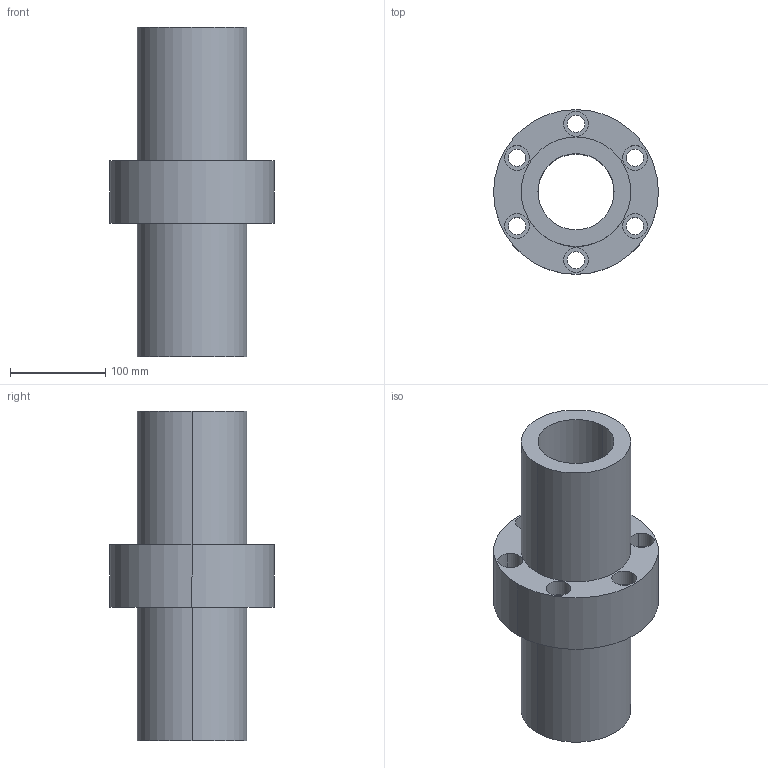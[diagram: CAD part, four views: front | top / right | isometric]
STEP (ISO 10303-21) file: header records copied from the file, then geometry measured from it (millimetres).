
FILE_DESCRIPTION((''),'2;1');
FILE_NAME('80-20T4','2008-04-07T',('yanyu'),(''),'PRO/ENGINEER BY PARAMETRIC TECHNOLOGY CORPORATION, 2005070','PRO/ENGINEER BY PARAMETRIC TECHNOLOGY CORPORATION, 2005070','');
FILE_SCHEMA(('CONFIG_CONTROL_DESIGN'));
Length unit declared in the file: millimetre
Products named in the file (1): 80-20T4
Bounding box: 173 x 173 x 346 mm (x, y, z)
Volume: 2590753.7 mm3; surface area: 282927.1 mm2
Topology: 1 solids, 1 shells, 42 faces, 104 edges, 72 vertices
Faces by surface type: cylinder 32, plane 10
Entity records: 1370 total; most frequent: DIRECTION 260, CARTESIAN_POINT 218, ORIENTED_EDGE 208, AXIS2_PLACEMENT_3D 114, EDGE_CURVE 104, VERTEX_POINT 72, CIRCLE 72, EDGE_LOOP 64
